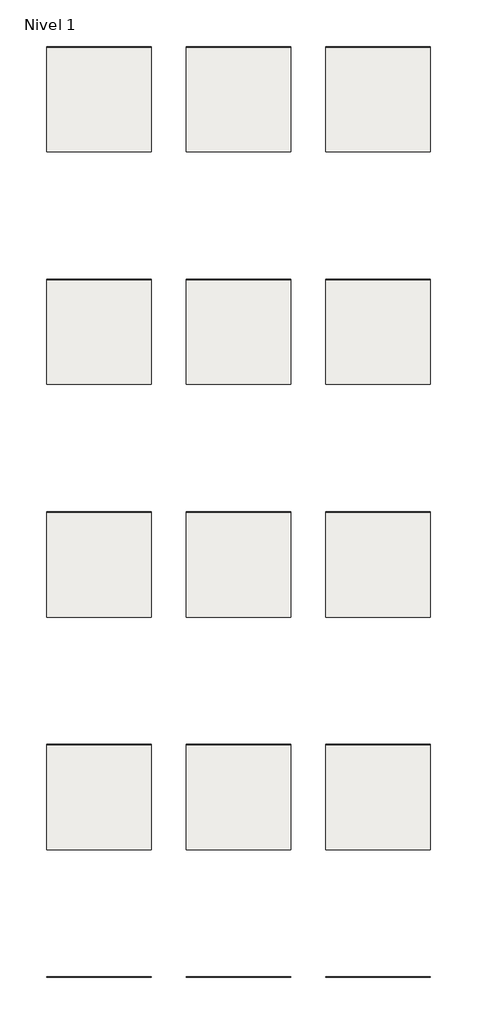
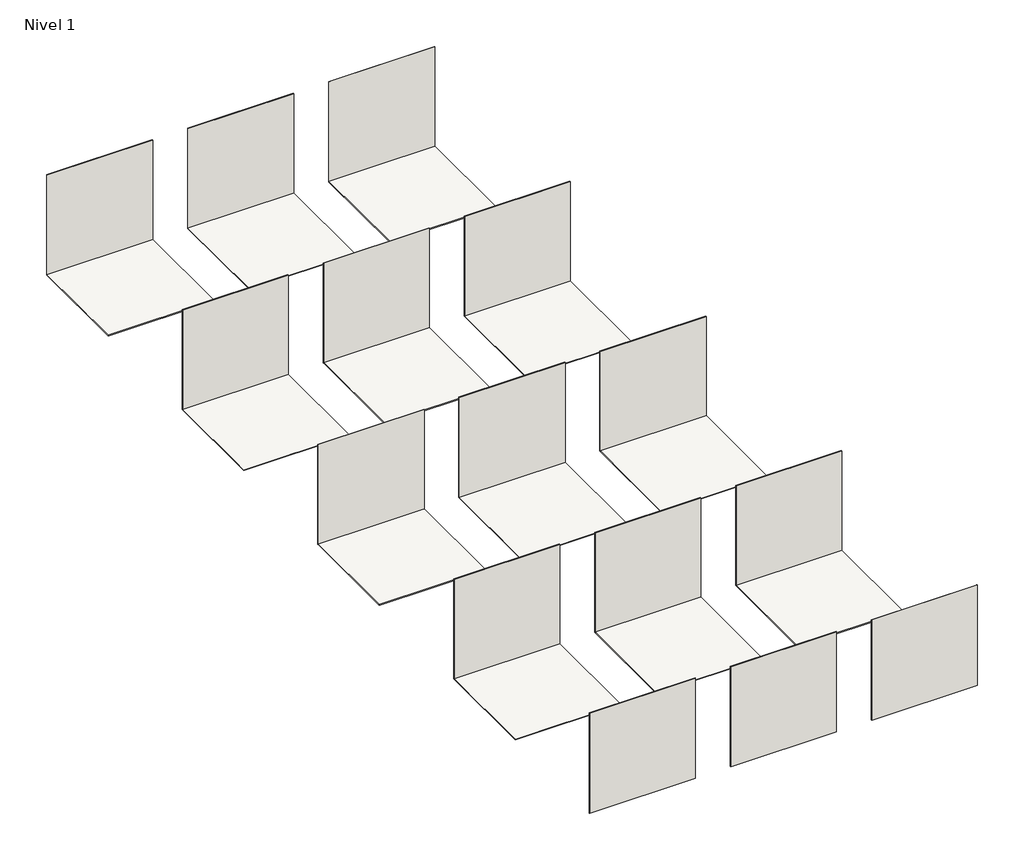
# One storey: 15 walls, 12 slabs.
"""IFC4 building model written with IfcOpenShell, lengths in millimetres."""

from ifc_helpers import new_model, si_unit, frame, origin, origin_with_axes, place, context, project, spatial, polyline, outline, extrude, element, save

model = new_model("IFC4")

# Units and contexts
model_context = context("Model", 3, world=origin())
ifc_project = project(units=[si_unit("LENGTHUNIT", "METRE", prefix="MILLI")], contexts=[model_context])

# Site, building, storey
site = spatial("IfcSite", under=ifc_project)
building = spatial("IfcBuilding", under=site)
storey = spatial("IfcBuildingStorey", under=building, Name="Nivel 1", Elevation=0.0)

# Slabs
placement = place(None, origin())
element("IfcSlab", 1, ObjectType="Bestile - Porfido Tex 200x200 Grey", at=placement, inside=storey, context=model_context, shape_type="SweptSolid", body=[
    extrude(outline(polyline([(2696.1159737, 7695.4266958), (2696.1159737, 5445.4266958), (446.1159737, 5445.4266958), (446.1159737, 7695.4266958), (2696.1159737, 7695.4266958)])), frame((0.0, 0.0, -15.0), z_axis=(0.0, 0.0, 1.0), x_axis=(1.0, 0.0, 0.0)), (0.0, 0.0, 1.0), 15.0),
])
element("IfcSlab", 2, ObjectType="Bestile - Porfido Tex 200x300 Brown", at=placement, inside=storey, context=model_context, shape_type="SweptSolid", body=[
    extrude(outline(polyline([(5696.1159737, 7695.4266958), (5696.1159737, 5445.4266958), (3446.1159737, 5445.4266958), (3446.1159737, 7695.4266958), (5696.1159737, 7695.4266958)])), frame((0.0, 0.0, -15.0), z_axis=(0.0, 0.0, 1.0), x_axis=(1.0, 0.0, 0.0)), (0.0, 0.0, 1.0), 15.0),
])
element("IfcSlab", 3, ObjectType="Bestile - Balbi 600x1200 Gris", at=placement, inside=storey, context=model_context, shape_type="SweptSolid", body=[
    extrude(outline(polyline([(8696.1159737, 7695.4266958), (8696.1159737, 5445.4266958), (6446.1159737, 5445.4266958), (6446.1159737, 7695.4266958), (8696.1159737, 7695.4266958)])), frame((0.0, 0.0, -15.0), z_axis=(0.0, 0.0, 1.0), x_axis=(1.0, 0.0, 0.0)), (0.0, 0.0, 1.0), 15.0),
])
element("IfcSlab", 4, ObjectType="Bestile - Juliette 600x1200 Bone", at=placement, inside=storey, context=model_context, shape_type="SweptSolid", body=[
    extrude(outline(polyline([(2696.1159737, 2695.4266958), (2696.1159737, 445.4266958), (446.1159737, 445.4266958), (446.1159737, 2695.4266958), (2696.1159737, 2695.4266958)])), frame((0.0, 0.0, -15.0), z_axis=(0.0, 0.0, 1.0), x_axis=(1.0, 0.0, 0.0)), (0.0, 0.0, 1.0), 15.0),
])
element("IfcSlab", 5, ObjectType="Bestile - Elegance 1200x1200 Cala Light", at=placement, inside=storey, context=model_context, shape_type="SweptSolid", body=[
    extrude(outline(polyline([(5696.1159737, 2695.4266958), (5696.1159737, 445.4266958), (3446.1159737, 445.4266958), (3446.1159737, 2695.4266958), (5696.1159737, 2695.4266958)])), frame((0.0, 0.0, -15.0), z_axis=(0.0, 0.0, 1.0), x_axis=(1.0, 0.0, 0.0)), (0.0, 0.0, 1.0), 15.0),
])
element("IfcSlab", 6, ObjectType="Bestile - Elegance 600x1200 Onice Light", at=placement, inside=storey, context=model_context, shape_type="SweptSolid", body=[
    extrude(outline(polyline([(8696.1159737, 2695.4266958), (8696.1159737, 445.4266958), (6446.1159737, 445.4266958), (6446.1159737, 2695.4266958), (8696.1159737, 2695.4266958)])), frame((0.0, 0.0, -15.0), z_axis=(0.0, 0.0, 1.0), x_axis=(1.0, 0.0, 0.0)), (0.0, 0.0, 1.0), 15.0),
])
element("IfcSlab", 7, ObjectType="Bestile - Pizarra 450x900 Negro", at=placement, inside=storey, context=model_context, shape_type="SweptSolid", body=[
    extrude(outline(polyline([(2696.1159737, -2304.5733042), (2696.1159737, -4554.5733042), (446.1159737, -4554.5733042), (446.1159737, -2304.5733042), (2696.1159737, -2304.5733042)])), frame((0.0, 0.0, -15.0), z_axis=(0.0, 0.0, 1.0), x_axis=(1.0, 0.0, 0.0)), (0.0, 0.0, 1.0), 15.0),
])
element("IfcSlab", 8, ObjectType="Bestile - Nolita 65x200 Burdeos", at=placement, inside=storey, context=model_context, shape_type="SweptSolid", body=[
    extrude(outline(polyline([(5696.1159737, -2304.5733042), (5696.1159737, -4554.5733042), (3446.1159737, -4554.5733042), (3446.1159737, -2304.5733042), (5696.1159737, -2304.5733042)])), frame((0.0, 0.0, -15.0), z_axis=(0.0, 0.0, 1.0), x_axis=(1.0, 0.0, 0.0)), (0.0, 0.0, 1.0), 15.0),
])
element("IfcSlab", 9, ObjectType="Bestile - Meraki 198x228 Aguamarina", at=placement, inside=storey, context=model_context, shape_type="SweptSolid", body=[
    extrude(outline(polyline([(8696.1159737, -2304.5733042), (8696.1159737, -4554.5733042), (6446.1159737, -4554.5733042), (6446.1159737, -2304.5733042), (8696.1159737, -2304.5733042)])), frame((0.0, 0.0, -15.0), z_axis=(0.0, 0.0, 1.0), x_axis=(1.0, 0.0, 0.0)), (0.0, 0.0, 1.0), 15.0),
])
element("IfcSlab", 10, ObjectType="Bestile - Carmen 150x150 Beige", at=placement, inside=storey, context=model_context, shape_type="SweptSolid", body=[
    extrude(outline(polyline([(2696.1159737, -7304.5733042), (2696.1159737, -9554.5733042), (446.1159737, -9554.5733042), (446.1159737, -7304.5733042), (2696.1159737, -7304.5733042)])), frame((0.0, 0.0, -15.0), z_axis=(0.0, 0.0, 1.0), x_axis=(1.0, 0.0, 0.0)), (0.0, 0.0, 1.0), 15.0),
])
element("IfcSlab", 11, ObjectType="Bestile - Kerala 170x520 Natural", at=placement, inside=storey, context=model_context, shape_type="SweptSolid", body=[
    extrude(outline(polyline([(5696.1159737, -7304.5733042), (5696.1159737, -9554.5733042), (3446.1159737, -9554.5733042), (3446.1159737, -7304.5733042), (5696.1159737, -7304.5733042)])), frame((0.0, 0.0, -15.0), z_axis=(0.0, 0.0, 1.0), x_axis=(1.0, 0.0, 0.0)), (0.0, 0.0, 1.0), 15.0),
])
element("IfcSlab", 12, ObjectType="Bestile - Orinoco 200x120 Haya", at=placement, inside=storey, context=model_context, shape_type="SweptSolid", body=[
    extrude(outline(polyline([(8696.1159737, -7304.5733042), (8696.1159737, -9554.5733042), (6446.1159737, -9554.5733042), (6446.1159737, -7304.5733042), (8696.1159737, -7304.5733042)])), frame((0.0, 0.0, -15.0), z_axis=(0.0, 0.0, 1.0), x_axis=(1.0, 0.0, 0.0)), (0.0, 0.0, 1.0), 15.0),
])

# Walls
element("IfcWall", 13, ObjectType="Bestile - Porfido Tex 200x200 Grey", at=placement, inside=storey, context=model_context, shape_type="SweptSolid", body=[
    extrude(outline(polyline([(2696.1159737, 7695.4266958), (446.1159737, 7695.4266958), (446.1159737, 7710.4266958), (2696.1159737, 7710.4266958), (2696.1159737, 7695.4266958)])), frame((0.0, 0.0, -15.0), z_axis=(0.0, 0.0, 1.0), x_axis=(1.0, 0.0, 0.0)), (0.0, 0.0, 1.0), 2250.0),
])
element("IfcWall", 14, ObjectType="Bestile - Porfido Tex 200x300 Brown", at=placement, inside=storey, context=model_context, shape_type="SweptSolid", body=[
    extrude(outline(polyline([(5696.1159737, 7695.4266958), (3446.1159737, 7695.4266958), (3446.1159737, 7710.4266958), (5696.1159737, 7710.4266958), (5696.1159737, 7695.4266958)])), frame((0.0, 0.0, -15.0), z_axis=(0.0, 0.0, 1.0), x_axis=(1.0, 0.0, 0.0)), (0.0, 0.0, 1.0), 2250.0),
])
element("IfcWall", 15, ObjectType="Bestile - Balbi 600x1200 Gris", at=placement, inside=storey, context=model_context, shape_type="SweptSolid", body=[
    extrude(outline(polyline([(8696.1159737, 7695.4266958), (6446.1159737, 7695.4266958), (6446.1159737, 7710.4266958), (8696.1159737, 7710.4266958), (8696.1159737, 7695.4266958)])), frame((0.0, 0.0, -15.0), z_axis=(0.0, 0.0, 1.0), x_axis=(1.0, 0.0, 0.0)), (0.0, 0.0, 1.0), 2250.0),
])
element("IfcWall", 16, ObjectType="Bestile - Juliette 600x1200 Bone", at=placement, inside=storey, context=model_context, shape_type="SweptSolid", body=[
    extrude(outline(polyline([(2696.1159737, 2695.4266958), (446.1159737, 2695.4266958), (446.1159737, 2710.4266958), (2696.1159737, 2710.4266958), (2696.1159737, 2695.4266958)])), frame((0.0, 0.0, -15.0), z_axis=(0.0, 0.0, 1.0), x_axis=(1.0, 0.0, 0.0)), (0.0, 0.0, 1.0), 2250.0),
])
element("IfcWall", 17, ObjectType="Bestile - Elegance 1200x1200 Cala Light", at=placement, inside=storey, context=model_context, shape_type="SweptSolid", body=[
    extrude(outline(polyline([(5696.1159737, 2695.4266958), (3446.1159737, 2695.4266958), (3446.1159737, 2710.4266958), (5696.1159737, 2710.4266958), (5696.1159737, 2695.4266958)])), frame((0.0, 0.0, -15.0), z_axis=(0.0, 0.0, 1.0), x_axis=(1.0, 0.0, 0.0)), (0.0, 0.0, 1.0), 2250.0),
])
element("IfcWall", 18, ObjectType="Bestile - Elegance 600x1200 Onice Light", at=placement, inside=storey, context=model_context, shape_type="SweptSolid", body=[
    extrude(outline(polyline([(8696.1159737, 2695.4266958), (6446.1159737, 2695.4266958), (6446.1159737, 2710.4266958), (8696.1159737, 2710.4266958), (8696.1159737, 2695.4266958)])), frame((0.0, 0.0, -15.0), z_axis=(0.0, 0.0, 1.0), x_axis=(1.0, 0.0, 0.0)), (0.0, 0.0, 1.0), 2250.0),
])
element("IfcWall", 19, ObjectType="Bestile - Pizarra 450x900 Negro", at=placement, inside=storey, context=model_context, shape_type="SweptSolid", body=[
    extrude(outline(polyline([(2696.1159737, -2304.5733042), (446.1159737, -2304.5733042), (446.1159737, -2289.5733042), (2696.1159737, -2289.5733042), (2696.1159737, -2304.5733042)])), frame((0.0, 0.0, -15.0), z_axis=(0.0, 0.0, 1.0), x_axis=(1.0, 0.0, 0.0)), (0.0, 0.0, 1.0), 2250.0),
])
element("IfcWall", 20, ObjectType="Bestile - Ascott 285x855 White", at=placement, inside=storey, context=model_context, shape_type="SweptSolid", body=[
    extrude(outline(polyline([(2696.1159737, -12304.5733042), (446.1159737, -12304.5733042), (446.1159737, -12289.5733042), (2696.1159737, -12289.5733042), (2696.1159737, -12304.5733042)])), origin_with_axes(), (0.0, 0.0, 1.0), 2250.0),
])
element("IfcWall", 21, ObjectType="Bestile - Valais 32,77x100", at=placement, inside=storey, context=model_context, shape_type="SweptSolid", body=[
    extrude(outline(polyline([(5696.1159737, -12304.5733042), (3446.1159737, -12304.5733042), (3446.1159737, -12289.5733042), (5696.1159737, -12289.5733042), (5696.1159737, -12304.5733042)])), origin_with_axes(), (0.0, 0.0, 1.0), 2250.0),
])
element("IfcWall", 22, ObjectType="Bestile - Bondi Fan 134x150 White", at=placement, inside=storey, context=model_context, shape_type="SweptSolid", body=[
    extrude(outline(polyline([(8696.1159737, -12304.5733042), (6446.1159737, -12304.5733042), (6446.1159737, -12289.5733042), (8696.1159737, -12289.5733042), (8696.1159737, -12304.5733042)])), origin_with_axes(), (0.0, 0.0, 1.0), 2250.0),
])
element("IfcWall", 23, ObjectType="Bestile - Nolita 65x200 Burdeos", at=placement, inside=storey, context=model_context, shape_type="SweptSolid", body=[
    extrude(outline(polyline([(5696.1159737, -2304.5733042), (3446.1159737, -2304.5733042), (3446.1159737, -2289.5733042), (5696.1159737, -2289.5733042), (5696.1159737, -2304.5733042)])), frame((0.0, 0.0, -15.0), z_axis=(0.0, 0.0, 1.0), x_axis=(1.0, 0.0, 0.0)), (0.0, 0.0, 1.0), 2265.0),
])
element("IfcWall", 24, ObjectType="Bestile - Meraki 198x228 Aguamarina", at=placement, inside=storey, context=model_context, shape_type="SweptSolid", body=[
    extrude(outline(polyline([(8696.1159737, -2304.5733042), (6446.1159737, -2304.5733042), (6446.1159737, -2289.5733042), (8696.1159737, -2289.5733042), (8696.1159737, -2304.5733042)])), frame((0.0, 0.0, -15.0), z_axis=(0.0, 0.0, 1.0), x_axis=(1.0, 0.0, 0.0)), (0.0, 0.0, 1.0), 2250.0),
])
element("IfcWall", 25, ObjectType="Bestile - Carmen 150x150 Beige", at=placement, inside=storey, context=model_context, shape_type="SweptSolid", body=[
    extrude(outline(polyline([(2696.1159737, -7304.5733042), (446.1159737, -7304.5733042), (446.1159737, -7289.5733042), (2696.1159737, -7289.5733042), (2696.1159737, -7304.5733042)])), frame((0.0, 0.0, -15.0), z_axis=(0.0, 0.0, 1.0), x_axis=(1.0, 0.0, 0.0)), (0.0, 0.0, 1.0), 2250.0),
])
element("IfcWall", 26, ObjectType="Bestile - Kerala 170x520 Natural", at=placement, inside=storey, context=model_context, shape_type="SweptSolid", body=[
    extrude(outline(polyline([(5696.1159737, -7304.5733042), (3446.1159737, -7304.5733042), (3446.1159737, -7289.5733042), (5696.1159737, -7289.5733042), (5696.1159737, -7304.5733042)])), frame((0.0, 0.0, -15.0), z_axis=(0.0, 0.0, 1.0), x_axis=(1.0, 0.0, 0.0)), (0.0, 0.0, 1.0), 2250.0),
])
element("IfcWall", 27, ObjectType="Bestile - Orinoco 200x120 Haya", at=placement, inside=storey, context=model_context, shape_type="SweptSolid", body=[
    extrude(outline(polyline([(8696.1159737, -7304.5733042), (6446.1159737, -7304.5733042), (6446.1159737, -7289.5733042), (8696.1159737, -7289.5733042), (8696.1159737, -7304.5733042)])), frame((0.0, 0.0, -15.0), z_axis=(0.0, 0.0, 1.0), x_axis=(1.0, 0.0, 0.0)), (0.0, 0.0, 1.0), 2250.0),
])

save(model, "model.ifc")
